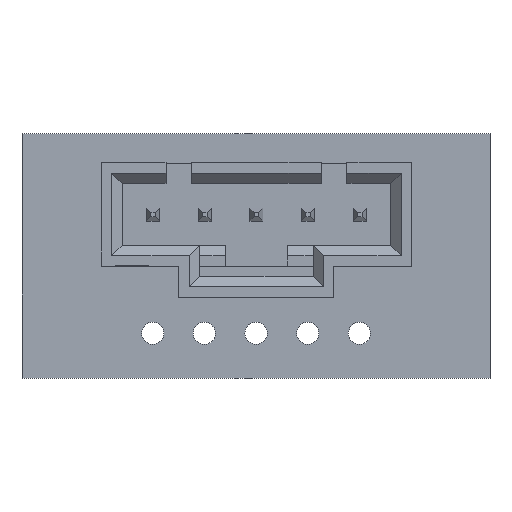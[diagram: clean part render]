
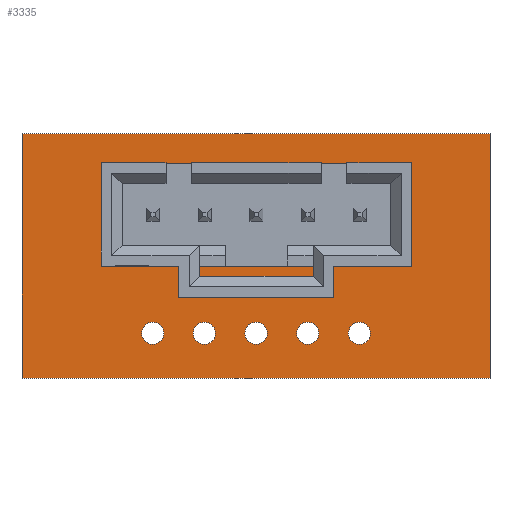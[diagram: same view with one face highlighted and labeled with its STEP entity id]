
A CAD part, top view. The second image highlights one B-rep face of the part: STEP entity #3335.
In plain terms, the highlighted planar face has unit normal (0, 0, 1).
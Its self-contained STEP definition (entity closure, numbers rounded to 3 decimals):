
#18 = AXIS2_PLACEMENT_3D ( 'NONE', #1005, #987, #3610 ) ;
#43 = VECTOR ( 'NONE', #1916, 1000. ) ;
#55 = ORIENTED_EDGE ( 'NONE', *, *, #2553, .F. ) ;
#85 = DIRECTION ( 'NONE',  ( 0., 0., 1. ) ) ;
#250 = ORIENTED_EDGE ( 'NONE', *, *, #965, .F. ) ;
#261 = VERTEX_POINT ( 'NONE', #4382 ) ;
#328 = CIRCLE ( 'NONE', #1984, 0.545 ) ;
#332 = EDGE_CURVE ( 'NONE', #2642, #261, #4094, .T. ) ;
#334 = DIRECTION ( 'NONE',  ( 0., 0., 1. ) ) ;
#391 = CARTESIAN_POINT ( 'NONE',  ( 14.66, -3.3, 1.55 ) ) ;
#395 = CARTESIAN_POINT ( 'NONE',  ( 0.598, -11.324, 1.55 ) ) ;
#411 = CARTESIAN_POINT ( 'NONE',  ( 10.125, -3.3, 1.55 ) ) ;
#429 = VERTEX_POINT ( 'NONE', #411 ) ;
#480 = ORIENTED_EDGE ( 'NONE', *, *, #3245, .F. ) ;
#503 = ORIENTED_EDGE ( 'NONE', *, *, #2078, .F. ) ;
#535 = EDGE_CURVE ( 'NONE', #2807, #2102, #2967, .T. ) ;
#536 = VERTEX_POINT ( 'NONE', #3016 ) ;
#557 = CARTESIAN_POINT ( 'NONE',  ( 0.598, -11.324, 1.55 ) ) ;
#562 = ORIENTED_EDGE ( 'NONE', *, *, #1216, .F. ) ;
#570 = DIRECTION ( 'NONE',  ( 0., 0., -1. ) ) ;
#596 = AXIS2_PLACEMENT_3D ( 'NONE', #391, #85, #1564 ) ;
#626 = DIRECTION ( 'NONE',  ( 0., 1., 0. ) ) ;
#718 = VERTEX_POINT ( 'NONE', #2257 ) ;
#721 = DIRECTION ( 'NONE',  ( 0., 0., 1. ) ) ;
#729 = CIRCLE ( 'NONE', #596, 0.545 ) ;
#740 = EDGE_CURVE ( 'NONE', #3467, #3467, #1962, .T. ) ;
#766 = CARTESIAN_POINT ( 'NONE',  ( 15.205, -3.3, 1.55 ) ) ;
#807 = DIRECTION ( 'NONE',  ( 0., 0., 1. ) ) ;
#824 = ORIENTED_EDGE ( 'NONE', *, *, #3383, .T. ) ;
#903 = VERTEX_POINT ( 'NONE', #1531 ) ;
#919 = CIRCLE ( 'NONE', #3574, 0.545 ) ;
#953 = AXIS2_PLACEMENT_3D ( 'NONE', #1158, #807, #1175 ) ;
#965 = EDGE_CURVE ( 'NONE', #4578, #4578, #3015, .T. ) ;
#987 = DIRECTION ( 'NONE',  ( 0., 0., 1. ) ) ;
#1005 = CARTESIAN_POINT ( 'NONE',  ( 9.562, -9.126, 1.55 ) ) ;
#1044 = DIRECTION ( 'NONE',  ( -1., 0., 0. ) ) ;
#1067 = EDGE_LOOP ( 'NONE', ( #2261 ) ) ;
#1086 = CARTESIAN_POINT ( 'NONE',  ( 7.022, -9.126, 1.55 ) ) ;
#1134 = VECTOR ( 'NONE', #626, 1000. ) ;
#1158 = CARTESIAN_POINT ( 'NONE',  ( 17.182, -9.126, 1.55 ) ) ;
#1175 = DIRECTION ( 'NONE',  ( 1., 0., 0. ) ) ;
#1183 = CARTESIAN_POINT ( 'NONE',  ( 17.727, -9.126, 1.55 ) ) ;
#1193 = CIRCLE ( 'NONE', #18, 0.545 ) ;
#1216 = EDGE_CURVE ( 'NONE', #1367, #1367, #3653, .T. ) ;
#1240 = DIRECTION ( 'NONE',  ( 1., 0., 0. ) ) ;
#1250 = VERTEX_POINT ( 'NONE', #1183 ) ;
#1252 = ORIENTED_EDGE ( 'NONE', *, *, #3808, .F. ) ;
#1275 = FACE_BOUND ( 'NONE', #3441, .T. ) ;
#1313 = CARTESIAN_POINT ( 'NONE',  ( 17.2, -3.3, 1.55 ) ) ;
#1325 = FACE_BOUND ( 'NONE', #1540, .T. ) ;
#1331 = DIRECTION ( 'NONE',  ( 0., 0., 1. ) ) ;
#1367 = VERTEX_POINT ( 'NONE', #2636 ) ;
#1455 = CARTESIAN_POINT ( 'NONE',  ( 7.04, -3.3, 1.55 ) ) ;
#1531 = CARTESIAN_POINT ( 'NONE',  ( 15.187, -9.126, 1.55 ) ) ;
#1540 = EDGE_LOOP ( 'NONE', ( #250 ) ) ;
#1543 = DIRECTION ( 'NONE',  ( 0., 0., 1. ) ) ;
#1564 = DIRECTION ( 'NONE',  ( 1., 0., 0. ) ) ;
#1567 = FACE_OUTER_BOUND ( 'NONE', #4106, .T. ) ;
#1580 = ORIENTED_EDGE ( 'NONE', *, *, #4503, .F. ) ;
#1633 = EDGE_LOOP ( 'NONE', ( #480 ) ) ;
#1696 = EDGE_CURVE ( 'NONE', #1250, #1250, #3318, .T. ) ;
#1727 = CIRCLE ( 'NONE', #3359, 0.545 ) ;
#1814 = DIRECTION ( 'NONE',  ( 1., 0., 0. ) ) ;
#1908 = VECTOR ( 'NONE', #3148, 1000. ) ;
#1916 = DIRECTION ( 'NONE',  ( 1., 0., 0. ) ) ;
#1928 = CARTESIAN_POINT ( 'NONE',  ( 10.107, -9.126, 1.55 ) ) ;
#1944 = EDGE_LOOP ( 'NONE', ( #55 ) ) ;
#1962 = CIRCLE ( 'NONE', #4376, 0.545 ) ;
#1984 = AXIS2_PLACEMENT_3D ( 'NONE', #1086, #334, #4050 ) ;
#2078 = EDGE_CURVE ( 'NONE', #718, #718, #328, .T. ) ;
#2090 = DIRECTION ( 'NONE',  ( 1., 0., 0. ) ) ;
#2102 = VERTEX_POINT ( 'NONE', #3312 ) ;
#2113 = CARTESIAN_POINT ( 'NONE',  ( 12.12, -3.3, 1.55 ) ) ;
#2203 = FACE_BOUND ( 'NONE', #3621, .T. ) ;
#2257 = CARTESIAN_POINT ( 'NONE',  ( 7.567, -9.126, 1.55 ) ) ;
#2261 = ORIENTED_EDGE ( 'NONE', *, *, #1696, .F. ) ;
#2283 = DIRECTION ( 'NONE',  ( 1., 0., 0. ) ) ;
#2311 = FACE_BOUND ( 'NONE', #4732, .T. ) ;
#2369 = CARTESIAN_POINT ( 'NONE',  ( 14.642, -9.126, 1.55 ) ) ;
#2431 = PLANE ( 'NONE',  #2889 ) ;
#2492 = DIRECTION ( 'NONE',  ( 1., 0., 0. ) ) ;
#2497 = FACE_BOUND ( 'NONE', #2745, .T. ) ;
#2499 = ORIENTED_EDGE ( 'NONE', *, *, #740, .F. ) ;
#2553 = EDGE_CURVE ( 'NONE', #536, #536, #4826, .T. ) ;
#2630 = AXIS2_PLACEMENT_3D ( 'NONE', #1313, #1331, #2090 ) ;
#2636 = CARTESIAN_POINT ( 'NONE',  ( 17.745, -3.3, 1.55 ) ) ;
#2642 = VERTEX_POINT ( 'NONE', #4304 ) ;
#2667 = CARTESIAN_POINT ( 'NONE',  ( 9.58, -3.3, 1.55 ) ) ;
#2670 = LINE ( 'NONE', #3572, #1908 ) ;
#2745 = EDGE_LOOP ( 'NONE', ( #1580 ) ) ;
#2799 = EDGE_LOOP ( 'NONE', ( #3642 ) ) ;
#2807 = VERTEX_POINT ( 'NONE', #2839 ) ;
#2839 = CARTESIAN_POINT ( 'NONE',  ( 0.598, -11.324, 1.55 ) ) ;
#2889 = AXIS2_PLACEMENT_3D ( 'NONE', #557, #570, #3556 ) ;
#2949 = VERTEX_POINT ( 'NONE', #1928 ) ;
#2967 = LINE ( 'NONE', #395, #43 ) ;
#2983 = AXIS2_PLACEMENT_3D ( 'NONE', #1455, #4070, #1814 ) ;
#3015 = CIRCLE ( 'NONE', #3224, 0.545 ) ;
#3016 = CARTESIAN_POINT ( 'NONE',  ( 7.585, -3.3, 1.55 ) ) ;
#3028 = FACE_BOUND ( 'NONE', #1633, .T. ) ;
#3148 = DIRECTION ( 'NONE',  ( 0., -1., 0. ) ) ;
#3151 = ORIENTED_EDGE ( 'NONE', *, *, #535, .T. ) ;
#3196 = FACE_BOUND ( 'NONE', #1067, .T. ) ;
#3224 = AXIS2_PLACEMENT_3D ( 'NONE', #4456, #721, #3342 ) ;
#3245 = EDGE_CURVE ( 'NONE', #903, #903, #919, .T. ) ;
#3261 = FACE_BOUND ( 'NONE', #2799, .T. ) ;
#3312 = CARTESIAN_POINT ( 'NONE',  ( 23.598, -11.324, 1.55 ) ) ;
#3318 = CIRCLE ( 'NONE', #953, 0.545 ) ;
#3335 = ADVANCED_FACE ( 'NONE', ( #1567, #2311, #2497, #3492, #1325, #3261, #3028, #3196, #1275, #2203, #3894 ), #2431, .F. ) ;
#3342 = DIRECTION ( 'NONE',  ( 1., 0., 0. ) ) ;
#3359 = AXIS2_PLACEMENT_3D ( 'NONE', #2667, #1543, #2283 ) ;
#3383 = EDGE_CURVE ( 'NONE', #261, #2807, #2670, .T. ) ;
#3410 = LINE ( 'NONE', #3969, #1134 ) ;
#3441 = EDGE_LOOP ( 'NONE', ( #2499 ) ) ;
#3467 = VERTEX_POINT ( 'NONE', #4488 ) ;
#3492 = FACE_BOUND ( 'NONE', #1944, .T. ) ;
#3493 = DIRECTION ( 'NONE',  ( 0., 0., 1. ) ) ;
#3536 = VERTEX_POINT ( 'NONE', #766 ) ;
#3556 = DIRECTION ( 'NONE',  ( -1., 0., 0. ) ) ;
#3572 = CARTESIAN_POINT ( 'NONE',  ( 0.598, 0.676, 1.55 ) ) ;
#3574 = AXIS2_PLACEMENT_3D ( 'NONE', #2369, #3493, #1240 ) ;
#3609 = VECTOR ( 'NONE', #1044, 1000. ) ;
#3610 = DIRECTION ( 'NONE',  ( 1., 0., 0. ) ) ;
#3621 = EDGE_LOOP ( 'NONE', ( #562 ) ) ;
#3642 = ORIENTED_EDGE ( 'NONE', *, *, #3783, .F. ) ;
#3646 = CARTESIAN_POINT ( 'NONE',  ( 23.598, 0.676, 1.55 ) ) ;
#3653 = CIRCLE ( 'NONE', #2630, 0.545 ) ;
#3730 = CARTESIAN_POINT ( 'NONE',  ( 12.647, -9.126, 1.55 ) ) ;
#3783 = EDGE_CURVE ( 'NONE', #429, #429, #1727, .T. ) ;
#3808 = EDGE_CURVE ( 'NONE', #3536, #3536, #729, .T. ) ;
#3894 = FACE_BOUND ( 'NONE', #3964, .T. ) ;
#3964 = EDGE_LOOP ( 'NONE', ( #1252 ) ) ;
#3969 = CARTESIAN_POINT ( 'NONE',  ( 23.598, -11.324, 1.55 ) ) ;
#4050 = DIRECTION ( 'NONE',  ( 1., 0., 0. ) ) ;
#4070 = DIRECTION ( 'NONE',  ( 0., 0., 1. ) ) ;
#4094 = LINE ( 'NONE', #3646, #3609 ) ;
#4106 = EDGE_LOOP ( 'NONE', ( #3151, #4556, #4780, #824 ) ) ;
#4304 = CARTESIAN_POINT ( 'NONE',  ( 23.598, 0.676, 1.55 ) ) ;
#4339 = DIRECTION ( 'NONE',  ( 0., 0., 1. ) ) ;
#4376 = AXIS2_PLACEMENT_3D ( 'NONE', #2113, #4339, #2492 ) ;
#4382 = CARTESIAN_POINT ( 'NONE',  ( 0.598, 0.676, 1.55 ) ) ;
#4456 = CARTESIAN_POINT ( 'NONE',  ( 12.102, -9.126, 1.55 ) ) ;
#4488 = CARTESIAN_POINT ( 'NONE',  ( 12.665, -3.3, 1.55 ) ) ;
#4503 = EDGE_CURVE ( 'NONE', #2949, #2949, #1193, .T. ) ;
#4546 = EDGE_CURVE ( 'NONE', #2102, #2642, #3410, .T. ) ;
#4556 = ORIENTED_EDGE ( 'NONE', *, *, #4546, .T. ) ;
#4578 = VERTEX_POINT ( 'NONE', #3730 ) ;
#4732 = EDGE_LOOP ( 'NONE', ( #503 ) ) ;
#4780 = ORIENTED_EDGE ( 'NONE', *, *, #332, .T. ) ;
#4826 = CIRCLE ( 'NONE', #2983, 0.545 ) ;
